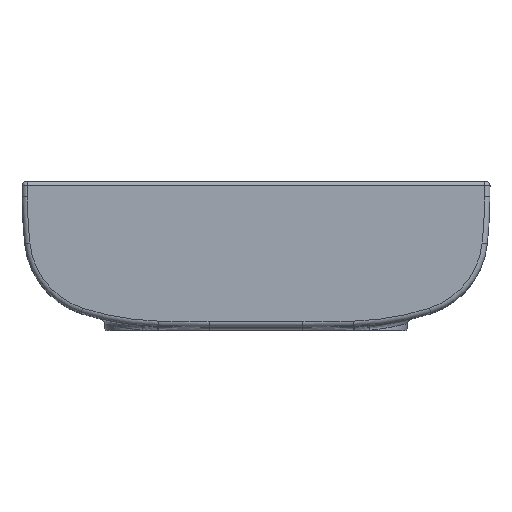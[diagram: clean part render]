
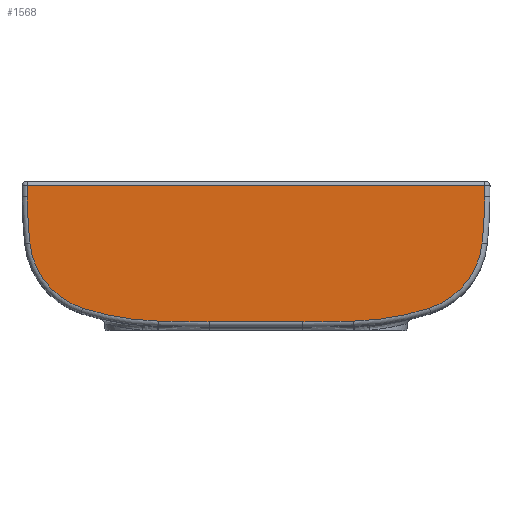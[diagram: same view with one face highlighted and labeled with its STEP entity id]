
A CAD part, top view. The second image highlights one B-rep face of the part: STEP entity #1568.
In plain terms, the highlighted planar face has unit normal (0, 0, 1).
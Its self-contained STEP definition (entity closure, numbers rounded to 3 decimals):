
#170 = AXIS2_PLACEMENT_3D ( 'NONE', #10441, #10591, #6003 ) ;
#351 = AXIS2_PLACEMENT_3D ( 'NONE', #8308, #536, #8453 ) ;
#370 = CARTESIAN_POINT ( 'NONE',  ( 45.123, -135., 195. ) ) ;
#536 = DIRECTION ( 'NONE',  ( 0., 0., -1. ) ) ;
#800 = DIRECTION ( 'NONE',  ( 0.009, -1., 0. ) ) ;
#898 = ORIENTED_EDGE ( 'NONE', *, *, #3479, .F. ) ;
#1065 = ORIENTED_EDGE ( 'NONE', *, *, #9427, .T. ) ;
#1102 = CARTESIAN_POINT ( 'NONE',  ( -45.123, -135., 195. ) ) ;
#1252 = EDGE_CURVE ( 'NONE', #2503, #13222, #4345, .T. ) ;
#1365 = CARTESIAN_POINT ( 'NONE',  ( -219.965, -4., 195. ) ) ;
#1386 = DIRECTION ( 'NONE',  ( -1., 0., 0. ) ) ;
#1444 = CARTESIAN_POINT ( 'NONE',  ( -217.411, -59.273, 195. ) ) ;
#1568 = ADVANCED_FACE ( 'NONE', ( #12503 ), #2174, .T. ) ;
#1596 = ORIENTED_EDGE ( 'NONE', *, *, #5321, .T. ) ;
#1675 = EDGE_CURVE ( 'NONE', #3624, #12237, #13974, .T. ) ;
#1829 = LINE ( 'NONE', #4015, #10896 ) ;
#2174 = PLANE ( 'NONE',  #10115 ) ;
#2265 = AXIS2_PLACEMENT_3D ( 'NONE', #11132, #12341, #14446 ) ;
#2372 = EDGE_CURVE ( 'NONE', #7899, #11135, #3373, .T. ) ;
#2378 = LINE ( 'NONE', #6984, #9484 ) ;
#2427 = AXIS2_PLACEMENT_3D ( 'NONE', #10901, #13384, #7514 ) ;
#2463 = DIRECTION ( 'NONE',  ( 1., 0., 0. ) ) ;
#2464 = DIRECTION ( 'NONE',  ( 0., 0., 1. ) ) ;
#2503 = VERTEX_POINT ( 'NONE', #6460 ) ;
#2525 = VERTEX_POINT ( 'NONE', #11892 ) ;
#2956 = CARTESIAN_POINT ( 'NONE',  ( -166.724, -121.921, 195. ) ) ;
#3373 = CIRCLE ( 'NONE', #11801, 73.733 ) ;
#3461 = ORIENTED_EDGE ( 'NONE', *, *, #11194, .T. ) ;
#3479 = EDGE_CURVE ( 'NONE', #13222, #2525, #9808, .T. ) ;
#3624 = VERTEX_POINT ( 'NONE', #10814 ) ;
#4015 = CARTESIAN_POINT ( 'NONE',  ( 255.566, -135., 195. ) ) ;
#4279 = CARTESIAN_POINT ( 'NONE',  ( -219.869, -14.956, 195. ) ) ;
#4345 = CIRCLE ( 'NONE', #12763, 475.454 ) ;
#4446 = CARTESIAN_POINT ( 'NONE',  ( 255.566, -4., 195. ) ) ;
#4789 = CARTESIAN_POINT ( 'NONE',  ( 219.965, -4., 195. ) ) ;
#4811 = DIRECTION ( 'NONE',  ( 1., 0., 0. ) ) ;
#5237 = ORIENTED_EDGE ( 'NONE', *, *, #1675, .T. ) ;
#5321 = EDGE_CURVE ( 'NONE', #7845, #12966, #8957, .T. ) ;
#6003 = DIRECTION ( 'NONE',  ( -1., 0., 0. ) ) ;
#6213 = VERTEX_POINT ( 'NONE', #4789 ) ;
#6238 = VECTOR ( 'NONE', #800, 1000. ) ;
#6278 = EDGE_CURVE ( 'NONE', #2525, #12018, #9999, .T. ) ;
#6331 = DIRECTION ( 'NONE',  ( 0., 0., -1. ) ) ;
#6460 = CARTESIAN_POINT ( 'NONE',  ( 219.869, -14.956, 195. ) ) ;
#6706 = LINE ( 'NONE', #4446, #10722 ) ;
#6773 = CARTESIAN_POINT ( 'NONE',  ( 255.566, -10.807, 195. ) ) ;
#6888 = EDGE_CURVE ( 'NONE', #6213, #7845, #6706, .T. ) ;
#6984 = CARTESIAN_POINT ( 'NONE',  ( 219.869, -14.956, 195. ) ) ;
#7135 = DIRECTION ( 'NONE',  ( -0.009, -1., 0. ) ) ;
#7277 = DIRECTION ( 'NONE',  ( 0., 0., -1. ) ) ;
#7514 = DIRECTION ( 'NONE',  ( 1., 0., 0. ) ) ;
#7845 = VERTEX_POINT ( 'NONE', #1365 ) ;
#7899 = VERTEX_POINT ( 'NONE', #1444 ) ;
#7984 = CARTESIAN_POINT ( 'NONE',  ( 93.974, -134.359, 195. ) ) ;
#8055 = EDGE_CURVE ( 'NONE', #12018, #8818, #11195, .T. ) ;
#8077 = AXIS2_PLACEMENT_3D ( 'NONE', #14279, #7277, #1386 ) ;
#8118 = CARTESIAN_POINT ( 'NONE',  ( -144.062, -51.757, 195. ) ) ;
#8207 = CIRCLE ( 'NONE', #2427, 258.802 ) ;
#8308 = CARTESIAN_POINT ( 'NONE',  ( 45.123, 1726.011, 195. ) ) ;
#8453 = DIRECTION ( 'NONE',  ( -1., 0., 0. ) ) ;
#8603 = CARTESIAN_POINT ( 'NONE',  ( -219.869, -14.956, 195. ) ) ;
#8616 = DIRECTION ( 'NONE',  ( 1., 0., 0. ) ) ;
#8735 = DIRECTION ( 'NONE',  ( 1., 0., 0. ) ) ;
#8818 = VERTEX_POINT ( 'NONE', #370 ) ;
#8881 = ORIENTED_EDGE ( 'NONE', *, *, #2372, .T. ) ;
#8957 = LINE ( 'NONE', #4279, #6238 ) ;
#9427 = EDGE_CURVE ( 'NONE', #12966, #7899, #12136, .T. ) ;
#9484 = VECTOR ( 'NONE', #7135, 1000. ) ;
#9686 = EDGE_CURVE ( 'NONE', #6213, #2503, #2378, .T. ) ;
#9808 = CIRCLE ( 'NONE', #170, 73.733 ) ;
#9877 = ORIENTED_EDGE ( 'NONE', *, *, #1252, .F. ) ;
#9999 = CIRCLE ( 'NONE', #8077, 258.802 ) ;
#10115 = AXIS2_PLACEMENT_3D ( 'NONE', #6773, #14758, #8735 ) ;
#10167 = DIRECTION ( 'NONE',  ( -1., 0., 0. ) ) ;
#10441 = CARTESIAN_POINT ( 'NONE',  ( 144.062, -51.757, 195. ) ) ;
#10591 = DIRECTION ( 'NONE',  ( 0., 0., -1. ) ) ;
#10651 = EDGE_LOOP ( 'NONE', ( #3461, #11384, #11183, #898, #9877, #13001, #14790, #1596, #1065, #8881, #11983, #5237 ) ) ;
#10722 = VECTOR ( 'NONE', #10167, 1000. ) ;
#10814 = CARTESIAN_POINT ( 'NONE',  ( -93.974, -134.359, 195. ) ) ;
#10836 = AXIS2_PLACEMENT_3D ( 'NONE', #13857, #14005, #2463 ) ;
#10896 = VECTOR ( 'NONE', #8616, 1000. ) ;
#10901 = CARTESIAN_POINT ( 'NONE',  ( -87.18, 124.354, 195. ) ) ;
#11132 = CARTESIAN_POINT ( 'NONE',  ( 255.566, -10.807, 195. ) ) ;
#11135 = VERTEX_POINT ( 'NONE', #2956 ) ;
#11183 = ORIENTED_EDGE ( 'NONE', *, *, #6278, .F. ) ;
#11194 = EDGE_CURVE ( 'NONE', #12237, #8818, #1829, .T. ) ;
#11195 = CIRCLE ( 'NONE', #351, 1861.011 ) ;
#11384 = ORIENTED_EDGE ( 'NONE', *, *, #8055, .F. ) ;
#11801 = AXIS2_PLACEMENT_3D ( 'NONE', #8118, #2464, #4811 ) ;
#11892 = CARTESIAN_POINT ( 'NONE',  ( 166.724, -121.921, 195. ) ) ;
#11909 = DIRECTION ( 'NONE',  ( -1., 0., 0. ) ) ;
#11983 = ORIENTED_EDGE ( 'NONE', *, *, #13292, .T. ) ;
#12018 = VERTEX_POINT ( 'NONE', #7984 ) ;
#12136 = CIRCLE ( 'NONE', #2265, 475.454 ) ;
#12237 = VERTEX_POINT ( 'NONE', #1102 ) ;
#12341 = DIRECTION ( 'NONE',  ( 0., 0., 1. ) ) ;
#12503 = FACE_OUTER_BOUND ( 'NONE', #10651, .T. ) ;
#12763 = AXIS2_PLACEMENT_3D ( 'NONE', #14387, #6331, #11909 ) ;
#12966 = VERTEX_POINT ( 'NONE', #8603 ) ;
#13001 = ORIENTED_EDGE ( 'NONE', *, *, #9686, .F. ) ;
#13222 = VERTEX_POINT ( 'NONE', #14366 ) ;
#13292 = EDGE_CURVE ( 'NONE', #11135, #3624, #8207, .T. ) ;
#13384 = DIRECTION ( 'NONE',  ( 0., 0., 1. ) ) ;
#13857 = CARTESIAN_POINT ( 'NONE',  ( -45.123, 1726.011, 195. ) ) ;
#13974 = CIRCLE ( 'NONE', #10836, 1861.011 ) ;
#14005 = DIRECTION ( 'NONE',  ( 0., 0., 1. ) ) ;
#14279 = CARTESIAN_POINT ( 'NONE',  ( 87.18, 124.354, 195. ) ) ;
#14366 = CARTESIAN_POINT ( 'NONE',  ( 217.411, -59.273, 195. ) ) ;
#14387 = CARTESIAN_POINT ( 'NONE',  ( -255.566, -10.807, 195. ) ) ;
#14446 = DIRECTION ( 'NONE',  ( 1., 0., 0. ) ) ;
#14758 = DIRECTION ( 'NONE',  ( 0., 0., 1. ) ) ;
#14790 = ORIENTED_EDGE ( 'NONE', *, *, #6888, .T. ) ;
